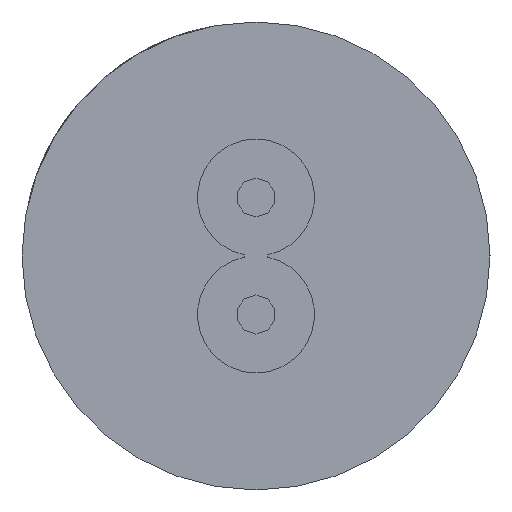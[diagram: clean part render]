
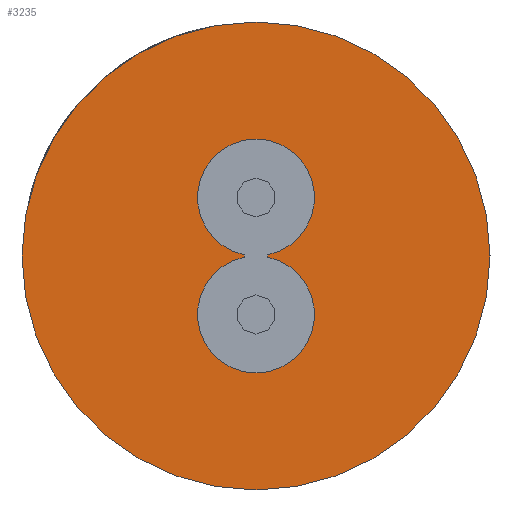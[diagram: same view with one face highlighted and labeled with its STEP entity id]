
A CAD part, left-side view. The second image highlights one B-rep face of the part: STEP entity #3235.
In plain terms, the highlighted planar face has unit normal (-1, 0, 0).
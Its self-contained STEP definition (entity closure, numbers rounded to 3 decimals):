
#130 = AXIS2_PLACEMENT_3D ( 'NONE', #6624, #6625, #6626 ) ;
#720 = VERTEX_POINT ( 'NONE', #5931 ) ;
#732 = VERTEX_POINT ( 'NONE', #5943 ) ;
#735 = VERTEX_POINT ( 'NONE', #5946 ) ;
#737 = VERTEX_POINT ( 'NONE', #5948 ) ;
#739 = VERTEX_POINT ( 'NONE', #5950 ) ;
#740 = VERTEX_POINT ( 'NONE', #5951 ) ;
#2483 = EDGE_CURVE ( 'NONE', #739, #735, #3300, .T. ) ;
#2488 = EDGE_CURVE ( 'NONE', #735, #732, #3308, .T. ) ;
#2489 = EDGE_CURVE ( 'NONE', #740, #739, #3309, .T. ) ;
#2490 = EDGE_CURVE ( 'NONE', #737, #740, #3304, .T. ) ;
#2491 = EDGE_CURVE ( 'NONE', #732, #737, #3311, .T. ) ;
#2492 = EDGE_CURVE ( 'NONE', #720, #6419, #3312, .T. ) ;
#2626 = EDGE_LOOP ( 'NONE', ( #2769, #2770, #2771, #2772, #2773 ) ) ;
#2628 = EDGE_LOOP ( 'NONE', ( #2774, #2775 ) ) ;
#2769 = ORIENTED_EDGE ( 'NONE', *, *, #2488, .F. ) ;
#2770 = ORIENTED_EDGE ( 'NONE', *, *, #2483, .F. ) ;
#2771 = ORIENTED_EDGE ( 'NONE', *, *, #2489, .F. ) ;
#2772 = ORIENTED_EDGE ( 'NONE', *, *, #2490, .F. ) ;
#2773 = ORIENTED_EDGE ( 'NONE', *, *, #2491, .F. ) ;
#2774 = ORIENTED_EDGE ( 'NONE', *, *, #4033, .F. ) ;
#2775 = ORIENTED_EDGE ( 'NONE', *, *, #2492, .F. ) ;
#3235 = ADVANCED_FACE ( 'NONE', ( #3448, #3452 ), #6617, .T. ) ;
#3300 = CIRCLE ( 'NONE', #3546, 0.75 ) ;
#3304 = LINE ( 'NONE', #6014, #3313 ) ;
#3308 = LINE ( 'NONE', #6000, #3310 ) ;
#3309 = CIRCLE ( 'NONE', #3547, 0.75 ) ;
#3310 = VECTOR ( 'NONE', #6013, 1000. ) ;
#3311 = CIRCLE ( 'NONE', #3548, 0.75 ) ;
#3312 = CIRCLE ( 'NONE', #3549, 3. ) ;
#3313 = VECTOR ( 'NONE', #6011, 1000. ) ;
#3448 = FACE_BOUND ( 'NONE', #2626, .T. ) ;
#3452 = FACE_OUTER_BOUND ( 'NONE', #2628, .T. ) ;
#3546 = AXIS2_PLACEMENT_3D ( 'NONE', #5980, #5981, #5982 ) ;
#3547 = AXIS2_PLACEMENT_3D ( 'NONE', #6015, #6016, #6017 ) ;
#3548 = AXIS2_PLACEMENT_3D ( 'NONE', #6018, #6019, #6020 ) ;
#3549 = AXIS2_PLACEMENT_3D ( 'NONE', #6021, #6022, #6023 ) ;
#4033 = EDGE_CURVE ( 'NONE', #6419, #720, #6268, .T. ) ;
#5671 = CARTESIAN_POINT ( 'NONE',  ( -25., 0., 0. ) ) ;
#5672 = DIRECTION ( 'NONE',  ( 1., 0., 0. ) ) ;
#5673 = DIRECTION ( 'NONE',  ( 0., 0., -1. ) ) ;
#5736 = CARTESIAN_POINT ( 'NONE',  ( -25., 0., -3. ) ) ;
#5931 = CARTESIAN_POINT ( 'NONE',  ( -25., 0., 3. ) ) ;
#5943 = CARTESIAN_POINT ( 'NONE',  ( -25., -0.15, 0.015 ) ) ;
#5946 = CARTESIAN_POINT ( 'NONE',  ( -25., -0.15, -0.015 ) ) ;
#5948 = CARTESIAN_POINT ( 'NONE',  ( -25., 0.15, 0.015 ) ) ;
#5950 = CARTESIAN_POINT ( 'NONE',  ( -25., 0., -1.5 ) ) ;
#5951 = CARTESIAN_POINT ( 'NONE',  ( -25., 0.15, -0.015 ) ) ;
#5980 = CARTESIAN_POINT ( 'NONE',  ( -25., 0., -0.75 ) ) ;
#5981 = DIRECTION ( 'NONE',  ( -1., 0., 0. ) ) ;
#5982 = DIRECTION ( 'NONE',  ( 0., 0., 1. ) ) ;
#6000 = CARTESIAN_POINT ( 'NONE',  ( -25., -0.15, -0.015 ) ) ;
#6011 = DIRECTION ( 'NONE',  ( 0., 0., -1. ) ) ;
#6013 = DIRECTION ( 'NONE',  ( 0., 0., 1. ) ) ;
#6014 = CARTESIAN_POINT ( 'NONE',  ( -25., 0.15, -0.015 ) ) ;
#6015 = CARTESIAN_POINT ( 'NONE',  ( -25., 0., -0.75 ) ) ;
#6016 = DIRECTION ( 'NONE',  ( -1., 0., 0. ) ) ;
#6017 = DIRECTION ( 'NONE',  ( 0., 0., 1. ) ) ;
#6018 = CARTESIAN_POINT ( 'NONE',  ( -25., 0., 0.75 ) ) ;
#6019 = DIRECTION ( 'NONE',  ( -1., 0., 0. ) ) ;
#6020 = DIRECTION ( 'NONE',  ( 0., 0., 1. ) ) ;
#6021 = CARTESIAN_POINT ( 'NONE',  ( -25., 0., 0. ) ) ;
#6022 = DIRECTION ( 'NONE',  ( 1., 0., 0. ) ) ;
#6023 = DIRECTION ( 'NONE',  ( 0., 0., -1. ) ) ;
#6268 = CIRCLE ( 'NONE', #6353, 3. ) ;
#6353 = AXIS2_PLACEMENT_3D ( 'NONE', #5671, #5672, #5673 ) ;
#6419 = VERTEX_POINT ( 'NONE', #5736 ) ;
#6617 = PLANE ( 'NONE',  #130 ) ;
#6624 = CARTESIAN_POINT ( 'NONE',  ( -25., 0., 0. ) ) ;
#6625 = DIRECTION ( 'NONE',  ( -1., 0., 0. ) ) ;
#6626 = DIRECTION ( 'NONE',  ( 0., 0., 1. ) ) ;
